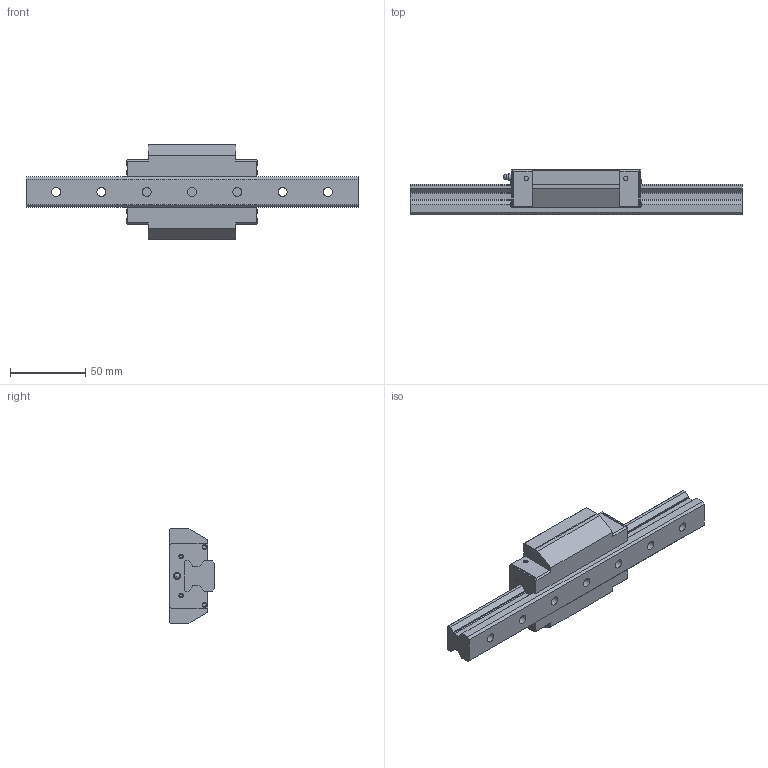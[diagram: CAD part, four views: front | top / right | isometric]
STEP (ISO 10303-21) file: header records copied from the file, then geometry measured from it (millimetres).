
FILE_DESCRIPTION(/* description */ ('STEP AP203'),/* implementation_level */ '2;1');
FILE_NAME(/* name */ 'SRG20XA1SS-220LP_G20_0_PB107_66-9_0_0_0_1',/* time_stamp */ '2024-05-23T09:35:38+02:00',/* author */ ('License CC BY-ND 4.0'),/* organization */ ('CADENAS'),/* preprocessor_version */ 'ST-DEVELOPER v19.3',/* originating_system */ 'PARTsolutions',/* authorisation */ ' ');
FILE_SCHEMA (('CONFIG_CONTROL_DESIGN'));
Length unit declared in the file: millimetre
Products named in the file (4): SRG20XA1SS-220LP_G20_0_PB107_66-9_0_0_0_1; SRG20XA22020 Track; SRG20XASSPB1071 Slide15-25; SRG-PB107_grease_nipple_joint
Assembly tree (3 placements, depth 2):
  SRG20XA1SS-220LP_G20_0_PB107_66-9_0_0_0_1
    SRG20XA22020 Track
    SRG20XASSPB1071 Slide15-25
    SRG-PB107_grease_nipple_joint
Bounding box: 220 x 30 x 63 mm (x, y, z)
Volume: 160984.6 mm3; surface area: 42936.5 mm2
Topology: 3 solids, 3 shells, 248 faces, 607 edges, 397 vertices
Faces by surface type: plane 188, cylinder 39, cone 12, torus 8, sphere 1
Full cylindrical faces by diameter (mm): 2.9 x4, 3 x3, 3.5 x1, 4.5 x1, 4.917 x6, 6 x7, 9.2 x2, 9.5 x7
Entity records: 7039 total; most frequent: CARTESIAN_POINT 1194, DIRECTION 1154, ORIENTED_EDGE 1096, EDGE_CURVE 548, LINE 446, VECTOR 446, VERTEX_POINT 394, FACE_BOUND 354
